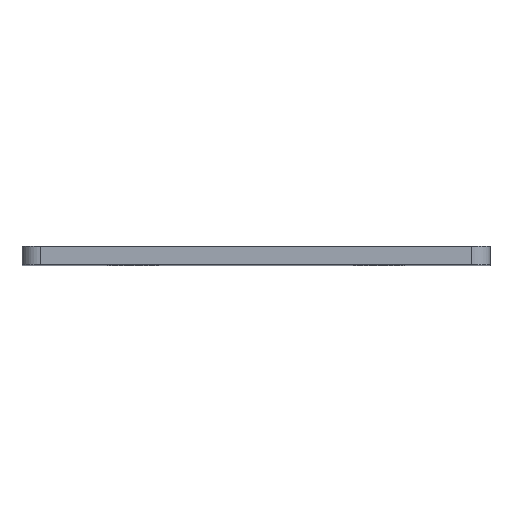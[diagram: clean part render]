
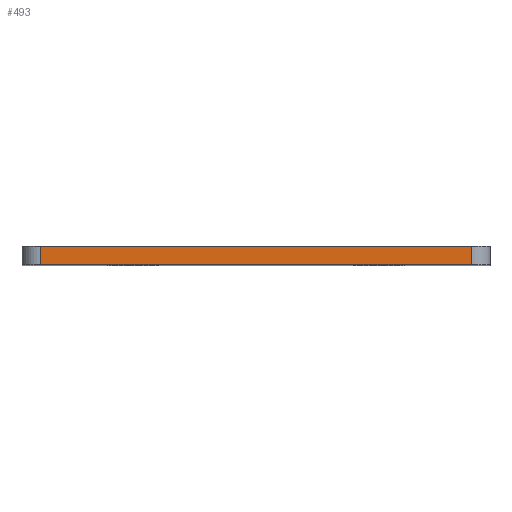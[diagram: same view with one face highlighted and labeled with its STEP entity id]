
A CAD part, top view. The second image highlights one B-rep face of the part: STEP entity #493.
In plain terms, the highlighted planar face has unit normal (0, 0, 1).
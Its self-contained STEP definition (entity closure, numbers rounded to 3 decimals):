
#11 = ORIENTED_EDGE ( 'NONE', *, *, #255, .F. ) ;
#73 = CARTESIAN_POINT ( 'NONE',  ( 35., 3., 98. ) ) ;
#78 = DIRECTION ( 'NONE',  ( 1., 0., 0. ) ) ;
#84 = EDGE_LOOP ( 'NONE', ( #181, #410, #11, #565 ) ) ;
#117 = EDGE_CURVE ( 'NONE', #768, #185, #724, .T. ) ;
#131 = VECTOR ( 'NONE', #78, 1000. ) ;
#142 = CARTESIAN_POINT ( 'NONE',  ( -38., 3., 98. ) ) ;
#181 = ORIENTED_EDGE ( 'NONE', *, *, #541, .T. ) ;
#185 = VERTEX_POINT ( 'NONE', #73 ) ;
#255 = EDGE_CURVE ( 'NONE', #443, #185, #531, .T. ) ;
#291 = CARTESIAN_POINT ( 'NONE',  ( 35., 0., 98. ) ) ;
#311 = LINE ( 'NONE', #437, #674 ) ;
#324 = CARTESIAN_POINT ( 'NONE',  ( -38., 0., 98. ) ) ;
#355 = FACE_OUTER_BOUND ( 'NONE', #84, .T. ) ;
#396 = EDGE_CURVE ( 'NONE', #443, #616, #311, .T. ) ;
#410 = ORIENTED_EDGE ( 'NONE', *, *, #117, .T. ) ;
#436 = CARTESIAN_POINT ( 'NONE',  ( -38., 0., 98. ) ) ;
#437 = CARTESIAN_POINT ( 'NONE',  ( -35., 0., 98. ) ) ;
#443 = VERTEX_POINT ( 'NONE', #686 ) ;
#448 = LINE ( 'NONE', #324, #131 ) ;
#489 = CARTESIAN_POINT ( 'NONE',  ( 35., 0., 98. ) ) ;
#490 = VECTOR ( 'NONE', #754, 1000. ) ;
#493 = ADVANCED_FACE ( 'NONE', ( #355 ), #755, .T. ) ;
#498 = DIRECTION ( 'NONE',  ( 1., 0., 0. ) ) ;
#531 = LINE ( 'NONE', #142, #490 ) ;
#541 = EDGE_CURVE ( 'NONE', #616, #768, #448, .T. ) ;
#552 = DIRECTION ( 'NONE',  ( 0., 1., 0. ) ) ;
#565 = ORIENTED_EDGE ( 'NONE', *, *, #396, .T. ) ;
#599 = VECTOR ( 'NONE', #552, 1000. ) ;
#616 = VERTEX_POINT ( 'NONE', #794 ) ;
#631 = DIRECTION ( 'NONE',  ( 0., 0., 1. ) ) ;
#674 = VECTOR ( 'NONE', #751, 1000. ) ;
#686 = CARTESIAN_POINT ( 'NONE',  ( -35., 3., 98. ) ) ;
#724 = LINE ( 'NONE', #489, #599 ) ;
#740 = AXIS2_PLACEMENT_3D ( 'NONE', #436, #631, #498 ) ;
#751 = DIRECTION ( 'NONE',  ( 0., -1., 0. ) ) ;
#754 = DIRECTION ( 'NONE',  ( 1., 0., 0. ) ) ;
#755 = PLANE ( 'NONE',  #740 ) ;
#768 = VERTEX_POINT ( 'NONE', #291 ) ;
#794 = CARTESIAN_POINT ( 'NONE',  ( -35., 0., 98. ) ) ;
